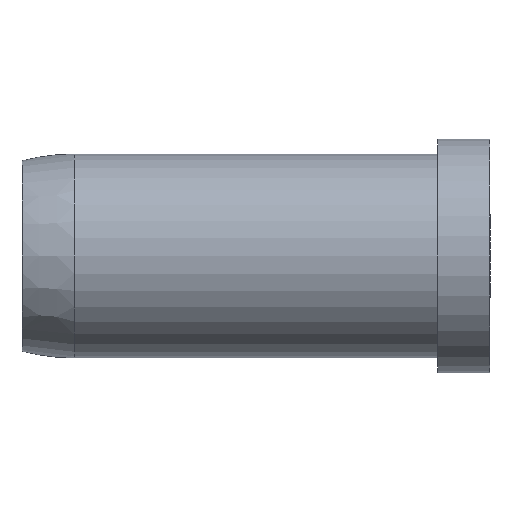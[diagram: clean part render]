
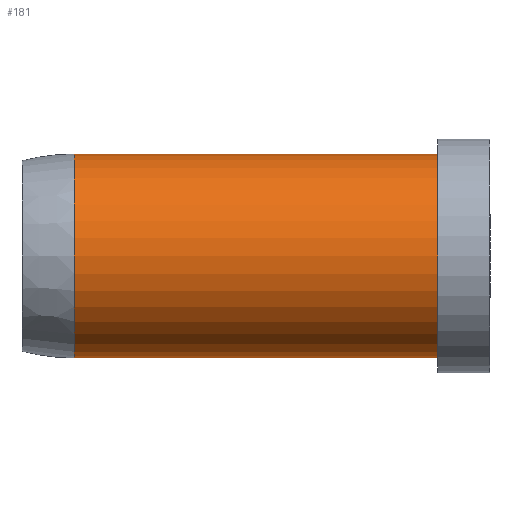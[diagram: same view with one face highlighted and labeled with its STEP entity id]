
A CAD part, front view. The second image highlights one B-rep face of the part: STEP entity #181.
In plain terms, the highlighted cylindrical face has radius 12.446 mm (diameter 24.892 mm), a partial arc.
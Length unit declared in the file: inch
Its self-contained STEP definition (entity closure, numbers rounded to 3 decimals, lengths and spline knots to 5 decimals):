
#6 = CARTESIAN_POINT ( 'NONE',  ( -2., 0., -0.49 ) ) ;
#22 = CIRCLE ( 'NONE', #122, 0.49 ) ;
#29 = ORIENTED_EDGE ( 'NONE', *, *, #422, .F. ) ;
#35 = VERTEX_POINT ( 'NONE', #6 ) ;
#52 = DIRECTION ( 'NONE',  ( 0., 0., 1. ) ) ;
#63 = ORIENTED_EDGE ( 'NONE', *, *, #175, .T. ) ;
#68 = CARTESIAN_POINT ( 'NONE',  ( -2.25, 0., 0.49 ) ) ;
#69 = VECTOR ( 'NONE', #333, 39.37008 ) ;
#80 = CARTESIAN_POINT ( 'NONE',  ( -0.25, 0., 0.49 ) ) ;
#104 = VERTEX_POINT ( 'NONE', #270 ) ;
#119 = VERTEX_POINT ( 'NONE', #80 ) ;
#122 = AXIS2_PLACEMENT_3D ( 'NONE', #138, #183, #52 ) ;
#138 = CARTESIAN_POINT ( 'NONE',  ( -2., 0., 0. ) ) ;
#144 = VECTOR ( 'NONE', #204, 39.37008 ) ;
#147 = EDGE_LOOP ( 'NONE', ( #29, #63, #208, #233 ) ) ;
#162 = CARTESIAN_POINT ( 'NONE',  ( -0.25, 0., 0. ) ) ;
#175 = EDGE_CURVE ( 'NONE', #104, #119, #264, .T. ) ;
#181 = ADVANCED_FACE ( 'NONE', ( #488 ), #195, .T. ) ;
#183 = DIRECTION ( 'NONE',  ( 1., 0., 0. ) ) ;
#195 = CYLINDRICAL_SURFACE ( 'NONE', #435, 0.49 ) ;
#203 = DIRECTION ( 'NONE',  ( 0., 0., 1. ) ) ;
#204 = DIRECTION ( 'NONE',  ( -1., 0., 0. ) ) ;
#208 = ORIENTED_EDGE ( 'NONE', *, *, #365, .T. ) ;
#233 = ORIENTED_EDGE ( 'NONE', *, *, #500, .T. ) ;
#264 = CIRCLE ( 'NONE', #348, 0.49 ) ;
#270 = CARTESIAN_POINT ( 'NONE',  ( -0.25, 0., -0.49 ) ) ;
#274 = DIRECTION ( 'NONE',  ( -1., 0., 0. ) ) ;
#333 = DIRECTION ( 'NONE',  ( -1., 0., 0. ) ) ;
#348 = AXIS2_PLACEMENT_3D ( 'NONE', #162, #437, #203 ) ;
#351 = DIRECTION ( 'NONE',  ( 0., 0., 1. ) ) ;
#360 = CARTESIAN_POINT ( 'NONE',  ( -2., 0., 0.49 ) ) ;
#365 = EDGE_CURVE ( 'NONE', #119, #471, #374, .T. ) ;
#374 = LINE ( 'NONE', #68, #69 ) ;
#394 = CARTESIAN_POINT ( 'NONE',  ( -2.25, 0., 0. ) ) ;
#422 = EDGE_CURVE ( 'NONE', #104, #35, #460, .T. ) ;
#435 = AXIS2_PLACEMENT_3D ( 'NONE', #394, #274, #351 ) ;
#437 = DIRECTION ( 'NONE',  ( -1., 0., 0. ) ) ;
#440 = CARTESIAN_POINT ( 'NONE',  ( -2.25, 0., -0.49 ) ) ;
#460 = LINE ( 'NONE', #440, #144 ) ;
#471 = VERTEX_POINT ( 'NONE', #360 ) ;
#488 = FACE_OUTER_BOUND ( 'NONE', #147, .T. ) ;
#500 = EDGE_CURVE ( 'NONE', #471, #35, #22, .T. ) ;
